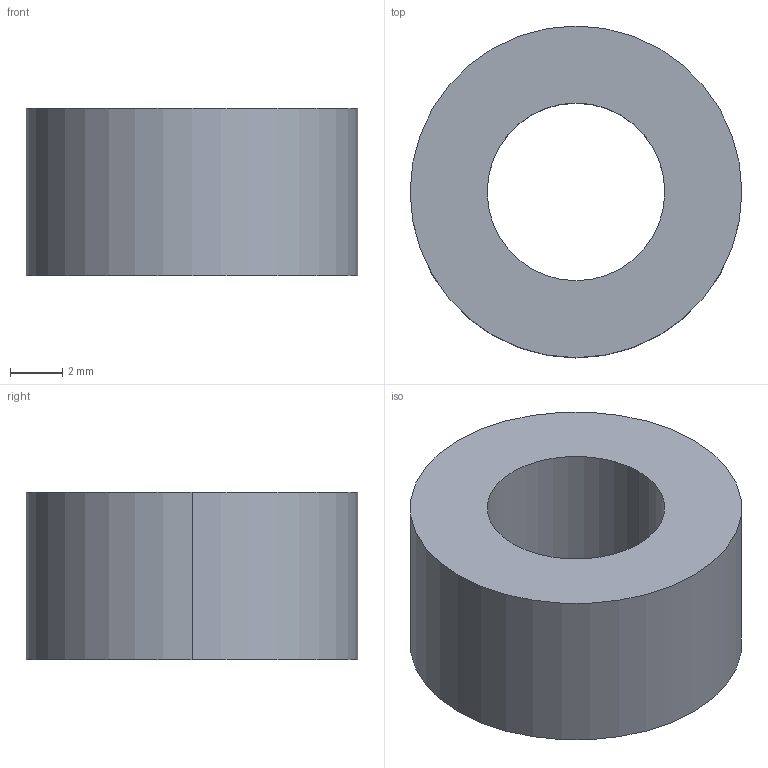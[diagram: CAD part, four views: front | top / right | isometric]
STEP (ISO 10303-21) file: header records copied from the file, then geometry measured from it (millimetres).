
FILE_DESCRIPTION(('STEP AP242'),'1');
FILE_NAME('10028827.stp','2025-04-06T19:07:18',('TraceParts'),('TraceParts S.A.'),'Spatial InterOp 3D',' ',' ');
FILE_SCHEMA(('AP242_MANAGED_MODEL_BASED_3D_ENGINEERING_MIM_LF {1 0 10303 442 1 1 4}'));
Length unit declared in the file: millimetre
Products named in the file (1): 10028827
Bounding box: 12.7 x 12.7 x 6.4 mm (x, y, z)
Volume: 578.3 mm3; surface area: 572.8 mm2
Topology: 1 solids, 1 shells, 6 faces, 12 edges, 8 vertices
Faces by surface type: cylinder 4, plane 2
Entity records: 183 total; most frequent: DIRECTION 34, CARTESIAN_POINT 27, ORIENTED_EDGE 24, AXIS2_PLACEMENT_3D 15, EDGE_CURVE 12, EDGE_LOOP 8, VERTEX_POINT 8, CIRCLE 8
